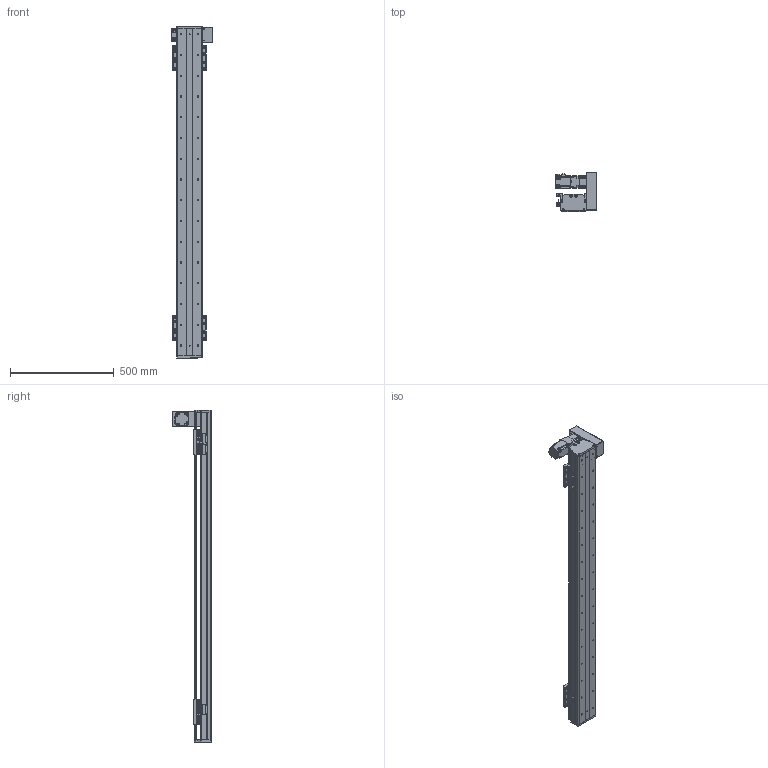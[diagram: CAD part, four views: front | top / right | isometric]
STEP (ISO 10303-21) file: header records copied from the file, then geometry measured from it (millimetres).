
FILE_DESCRIPTION(/* description */ (''),/* implementation_level */ '2;1');
FILE_NAME(/* name */ 'C:\Users\PC\Desktop\3D도면\STEP\DSB125-UR2G-W1300-L.stp',/* time_stamp */ '2018-06-19T16:57:21+09:00',/* author */ ('PC'),/* organization */ (''),/* preprocessor_version */ 'ST-DEVELOPER v16.5',/* originating_system */ 'Autodesk Inventor 2017',/* authorisation */ '');
FILE_SCHEMA (('AUTOMOTIVE_DESIGN { 1 0 10303 214 3 1 1 }'));
Length unit declared in the file: millimetre
Products named in the file (12): DSB125-UL2G-W1300-R_MIR; DSB125-BASE_MIR; DSB125-UP COVER_MIR; DSB125-FRONT COVER_MIR; DSB125-REAR COVER_MIR; hg-kr23__MIR; ab0601-p0401200402_MIR; 13-BELT COVER_MIR; DSR125-SENSOR DOG_MIR; SENSOR BRACKET(EE-SX674A)_MIR; pm-y65_step_MIR; DSB125-TABLE(MSB15S)_MIR
Assembly tree (16 placements, depth 2):
  DSB125-UL2G-W1300-R_MIR
    DSB125-BASE_MIR
    DSB125-UP COVER_MIR
    DSB125-FRONT COVER_MIR
    DSB125-REAR COVER_MIR
    hg-kr23__MIR
    ab0601-p0401200402_MIR
    13-BELT COVER_MIR
    DSR125-SENSOR DOG_MIR
    SENSOR BRACKET(EE-SX674A)_MIR  x3
    pm-y65_step_MIR  x3
    DSB125-TABLE(MSB15S)_MIR  x2
Bounding box: 202.1 x 187 x 1600 mm (x, y, z)
Volume: 5661080.5 mm3; surface area: 1629003.6 mm2
Topology: 17 solids, 17 shells, 1675 faces, 4540 edges, 2990 vertices
Faces by surface type: plane 903, cylinder 638, cone 122, sphere 8, torus 4
Full cylindrical faces by diameter (mm): 2.459 x20, 3.242 x16, 3.5 x6, 4 x1, 4.134 x16, 4.2 x4, 4.3 x1, 4.5 x50, 4.917 x20, 5 x22, 5.3 x1, 5.5 x4, 5.6 x8, 5.8 x4, 5.9 x8, 6 x4, 6.6 x22, 6.647 x32, 7.5 x32, 8.5 x8, 8.7 x1, 11 x22, 14 x1, 16 x2, 17 x1, 20 x1, 47 x1, 50 x3
Entity records: 36305 total; most frequent: CARTESIAN_POINT 6531, DIRECTION 6170, ORIENTED_EDGE 5506, EDGE_CURVE 2753, AXIS2_PLACEMENT_3D 2273, VERTEX_POINT 1962, EDGE_LOOP 1701, LINE 1624
